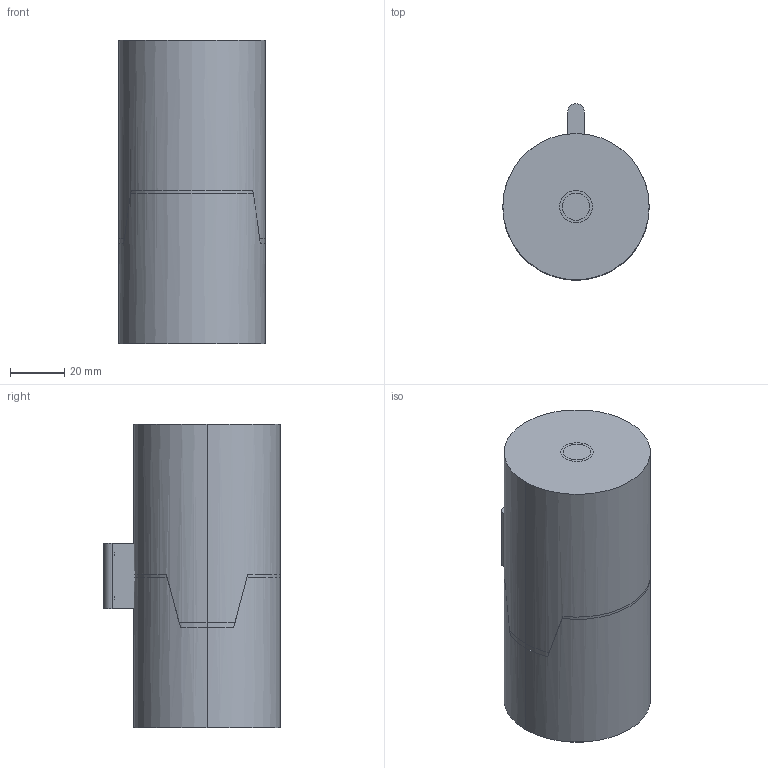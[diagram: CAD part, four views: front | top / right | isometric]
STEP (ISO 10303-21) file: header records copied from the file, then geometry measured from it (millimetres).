
FILE_DESCRIPTION (( 'STEP AP214' ), '1' );
FILE_NAME ('BruyRubio_BR06_54.STEP', '2019-12-17T08:49:31', ( '' ), ( '' ), 'SwSTEP 2.0', 'SolidWorks 2017', '' );
FILE_SCHEMA (( 'AUTOMOTIVE_DESIGN' ));
Length unit declared in the file: millimetre
Products named in the file (5): BruyRubio_BR06_54; Einbauraum_f9af41; BR06 54_3e9503; PAS 6 x 16_621e46; PAS 6 x 16_9b832e
Assembly tree (4 placements, depth 2):
  BruyRubio_BR06_54
    Einbauraum_f9af41
    BR06 54_3e9503
    PAS 6 x 16_621e46
    PAS 6 x 16_9b832e
Bounding box: 54 x 65.1 x 112 mm (x, y, z)
Surface area: 61691.1 mm2
Topology: 8 solids, 8 shells, 72 faces, 154 edges, 101 vertices
Faces by surface type: cylinder 31, plane 27, sphere 8, cone 6
Entity records: 3136 total; most frequent: CARTESIAN_POINT 488, DIRECTION 384, ORIENTED_EDGE 304, AXIS2_PLACEMENT_3D 165, EDGE_CURVE 152, VERTEX_POINT 101, UNCERTAINTY_MEASURE_WITH_UNIT 89, CIRCLE 86
